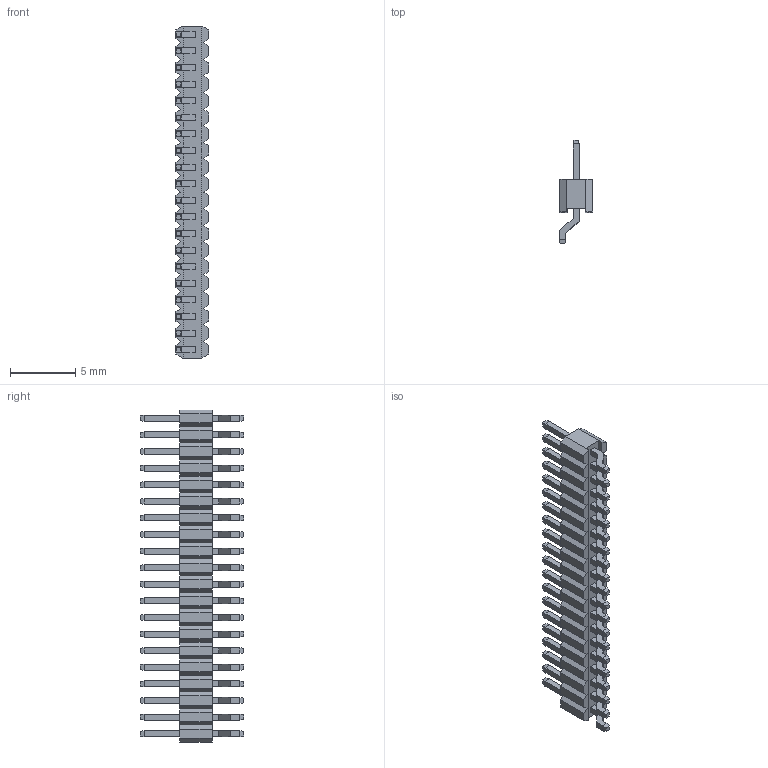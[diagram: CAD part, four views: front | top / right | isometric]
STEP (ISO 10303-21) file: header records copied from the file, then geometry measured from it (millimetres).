
FILE_DESCRIPTION (( 'STEP AP214' ), '1' );
FILE_NAME ('PZ127-1-20-WS-2.5-XX(L7.9) (1.27单排 排针 卧贴 塑高2.5-HCTL).STEP', '2024-10-28T06:00:26', ( '' ), ( '' ), 'SwSTEP 2.0', 'SolidWorks 2022', '' );
FILE_SCHEMA (( 'AUTOMOTIVE_DESIGN' ));
Length unit declared in the file: millimetre
Products named in the file (1): PZ127-1-20-WS-2.5-XX(L7.9) (1.27单排 排针 卧贴 塑高2.5-HCTL)
Bounding box: 2.53 x 7.9 x 25.37 mm (x, y, z)
Volume: 162.4 mm3; surface area: 527.5 mm2
Topology: 1 solids, 1 shells, 568 faces, 1418 edges, 892 vertices
Faces by surface type: plane 568
Entity records: 21216 total; most frequent: CARTESIAN_POINT 2879, ORIENTED_EDGE 2836, DIRECTION 2556, EDGE_CURVE 1418, VECTOR 1418, LINE 1418, VERTEX_POINT 892, EDGE_LOOP 608
